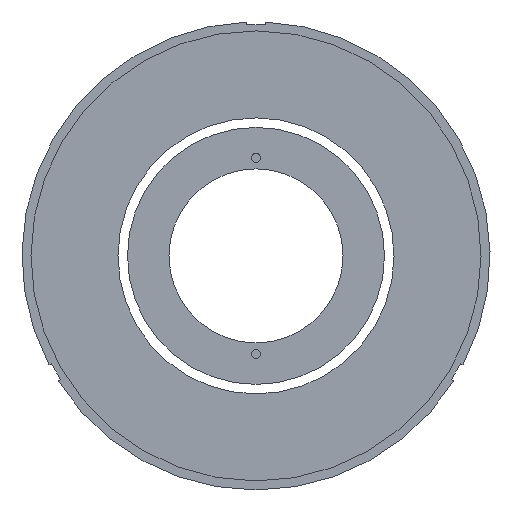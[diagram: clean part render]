
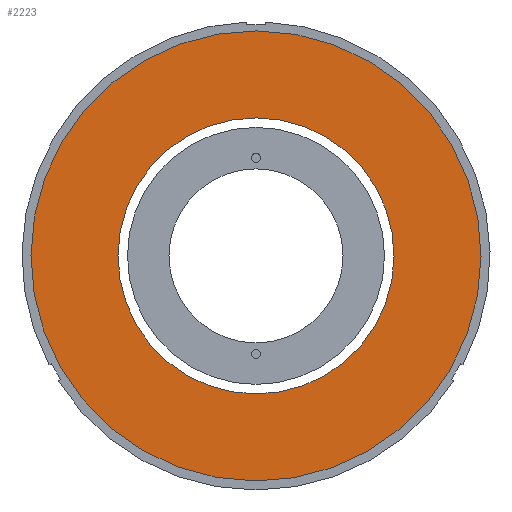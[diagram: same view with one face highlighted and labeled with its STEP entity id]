
A CAD part, front view. The second image highlights one B-rep face of the part: STEP entity #2223.
In plain terms, the highlighted planar face has unit normal (0, -1, 0).
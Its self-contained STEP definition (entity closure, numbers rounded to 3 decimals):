
#115 = VERTEX_POINT ( 'NONE', #2180 ) ;
#150 = CARTESIAN_POINT ( 'NONE',  ( -6.068, -3.324, 48.847 ) ) ;
#247 = FACE_OUTER_BOUND ( 'NONE', #2301, .T. ) ;
#387 = CARTESIAN_POINT ( 'NONE',  ( 11.496, -3.324, 33.999 ) ) ;
#473 = CIRCLE ( 'NONE', #2479, 37.5 ) ;
#478 = CARTESIAN_POINT ( 'NONE',  ( 22.57, -3.324, 24.637 ) ) ;
#547 = EDGE_LOOP ( 'NONE', ( #3039, #1365 ) ) ;
#685 = AXIS2_PLACEMENT_3D ( 'NONE', #150, #2299, #2337 ) ;
#718 = CARTESIAN_POINT ( 'NONE',  ( -6.068, -3.324, 48.847 ) ) ;
#740 = PLANE ( 'NONE',  #2197 ) ;
#776 = DIRECTION ( 'NONE',  ( -0.764, 0., 0.646 ) ) ;
#847 = EDGE_CURVE ( 'NONE', #3519, #1308, #1826, .T. ) ;
#881 = CIRCLE ( 'NONE', #2535, 23. ) ;
#990 = CIRCLE ( 'NONE', #1394, 23. ) ;
#1059 = DIRECTION ( 'NONE',  ( 0., 1., 0. ) ) ;
#1220 = DIRECTION ( 'NONE',  ( -0.764, 0., 0.646 ) ) ;
#1308 = VERTEX_POINT ( 'NONE', #2774 ) ;
#1365 = ORIENTED_EDGE ( 'NONE', *, *, #2959, .T. ) ;
#1394 = AXIS2_PLACEMENT_3D ( 'NONE', #1781, #1059, #3472 ) ;
#1571 = DIRECTION ( 'NONE',  ( -0.764, 0., 0.646 ) ) ;
#1781 = CARTESIAN_POINT ( 'NONE',  ( -6.068, -3.324, 48.847 ) ) ;
#1826 = CIRCLE ( 'NONE', #685, 37.5 ) ;
#2092 = CARTESIAN_POINT ( 'NONE',  ( -6.068, -3.324, 48.847 ) ) ;
#2148 = CARTESIAN_POINT ( 'NONE',  ( -6.068, -3.324, 48.847 ) ) ;
#2180 = CARTESIAN_POINT ( 'NONE',  ( -23.633, -3.324, 63.696 ) ) ;
#2197 = AXIS2_PLACEMENT_3D ( 'NONE', #2092, #3179, #1571 ) ;
#2223 = ADVANCED_FACE ( 'NONE', ( #247, #2930 ), #740, .F. ) ;
#2299 = DIRECTION ( 'NONE',  ( 0., 1., 0. ) ) ;
#2301 = EDGE_LOOP ( 'NONE', ( #3016, #2818 ) ) ;
#2337 = DIRECTION ( 'NONE',  ( -0.764, 0., 0.646 ) ) ;
#2397 = VERTEX_POINT ( 'NONE', #387 ) ;
#2479 = AXIS2_PLACEMENT_3D ( 'NONE', #2148, #3218, #776 ) ;
#2535 = AXIS2_PLACEMENT_3D ( 'NONE', #718, #2620, #1220 ) ;
#2620 = DIRECTION ( 'NONE',  ( 0., 1., 0. ) ) ;
#2774 = CARTESIAN_POINT ( 'NONE',  ( -34.706, -3.324, 73.057 ) ) ;
#2818 = ORIENTED_EDGE ( 'NONE', *, *, #3094, .F. ) ;
#2930 = FACE_BOUND ( 'NONE', #547, .T. ) ;
#2959 = EDGE_CURVE ( 'NONE', #115, #2397, #990, .T. ) ;
#3016 = ORIENTED_EDGE ( 'NONE', *, *, #847, .F. ) ;
#3039 = ORIENTED_EDGE ( 'NONE', *, *, #3399, .T. ) ;
#3094 = EDGE_CURVE ( 'NONE', #1308, #3519, #473, .T. ) ;
#3179 = DIRECTION ( 'NONE',  ( 0., 1., 0. ) ) ;
#3218 = DIRECTION ( 'NONE',  ( 0., 1., 0. ) ) ;
#3399 = EDGE_CURVE ( 'NONE', #2397, #115, #881, .T. ) ;
#3472 = DIRECTION ( 'NONE',  ( -0.764, 0., 0.646 ) ) ;
#3519 = VERTEX_POINT ( 'NONE', #478 ) ;
